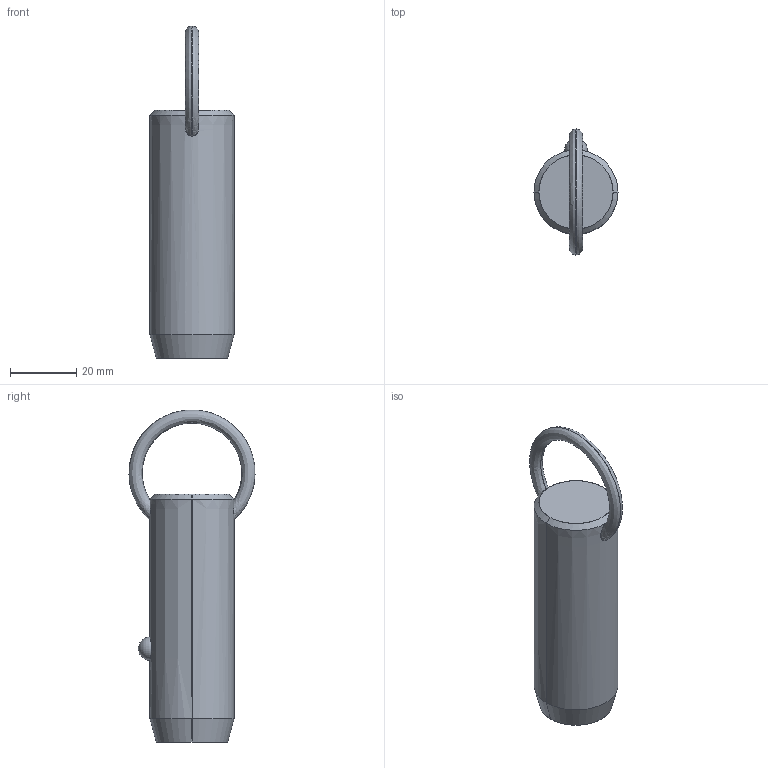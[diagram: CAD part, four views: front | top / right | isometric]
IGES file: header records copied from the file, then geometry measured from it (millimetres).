
Start section: SolidWorks IGES file using analytic representation for surfaces
Global section: file name: C:\Users\liam_\OneDrive\Documents\WORK\Work for WixRoyd\Job Files\J-00019 - Matt Davis CAD Checking\04. CAD Drawings\automotion20190605\P1250.2_v2\P1250.2_v2_20190729_IGES\P1250.100-120.igs; native system: SolidWorks 2017; preprocessor: SolidWorks 2017; author: liam_; date: 190730.173305; units: millimetre
Bounding box: 25.4 x 38.09 x 100.29 mm (x, y, z)
Surface area: 7750.1 mm2 (no closed solid volume)
Topology: 0 solids, 0 shells, 12 faces, 298 edges, 296 vertices
Faces by surface type: revolution 8, bspline 4
